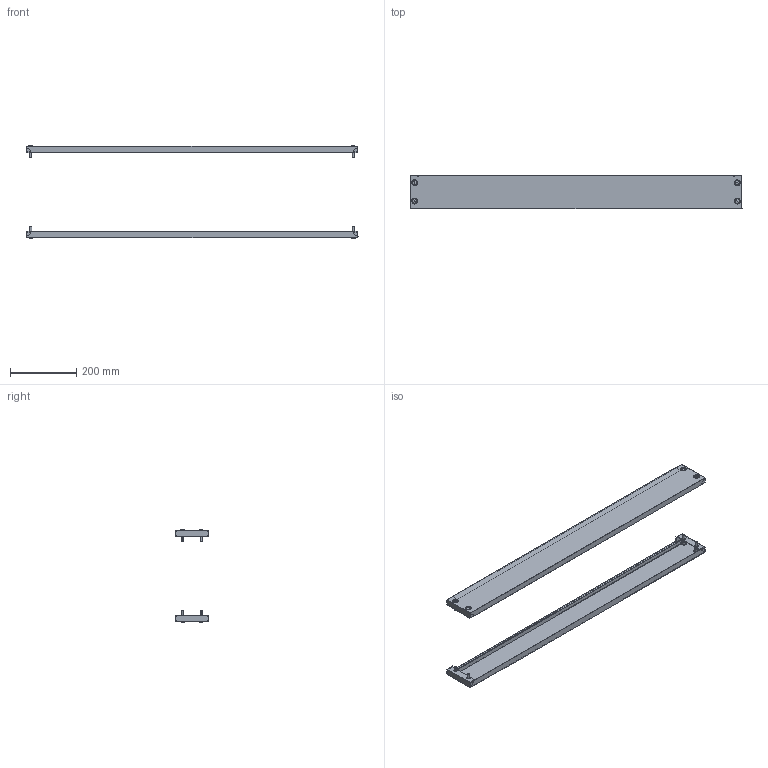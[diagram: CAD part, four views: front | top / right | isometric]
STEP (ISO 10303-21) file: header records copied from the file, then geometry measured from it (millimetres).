
FILE_DESCRIPTION (( 'STEP AP203' ), '1' );
FILE_NAME ('R5FZ1-300.STEP', '2025-06-18T08:40:15', ( '' ), ( '' ), 'SwSTEP 2.0', 'SolidWorks 2022', '' );
FILE_SCHEMA (( 'CONFIG_CONTROL_DESIGN' ));
Length unit declared in the file: millimetre
Products named in the file (5): 6 DIN 6798 A Zinc; RB.1055.00.00.0 simple_-04 (1000); R5FZ1-300; M6x16 DIN 912 HX cl.4,8 Zinc_stright; Plug_11.5-13Д18ЧК_-00
Assembly tree (26 placements, depth 2):
  R5FZ1-300
    RB.1055.00.00.0 simple_-04 (1000)  x2
    M6x16 DIN 912 HX cl.4,8 Zinc_stright  x8
    6 DIN 6798 A Zinc  x8
    Plug_11.5-13Д18ЧК_-00  x8
Bounding box: 999 x 100.05 x 278.5 mm (x, y, z)
Volume: 473580.9 mm3; surface area: 640543.7 mm2
Topology: 26 solids, 26 shells, 1196 faces, 3456 edges, 2112 vertices
Faces by surface type: plane 700, bspline 208, cylinder 128, cone 96, torus 48, sphere 16
Entity records: 9921 total; most frequent: CARTESIAN_POINT 2626, ORIENTED_EDGE 1352, DIRECTION 1188, EDGE_CURVE 676, VECTOR 448, LINE 448, VERTEX_POINT 444, AXIS2_PLACEMENT_3D 370
